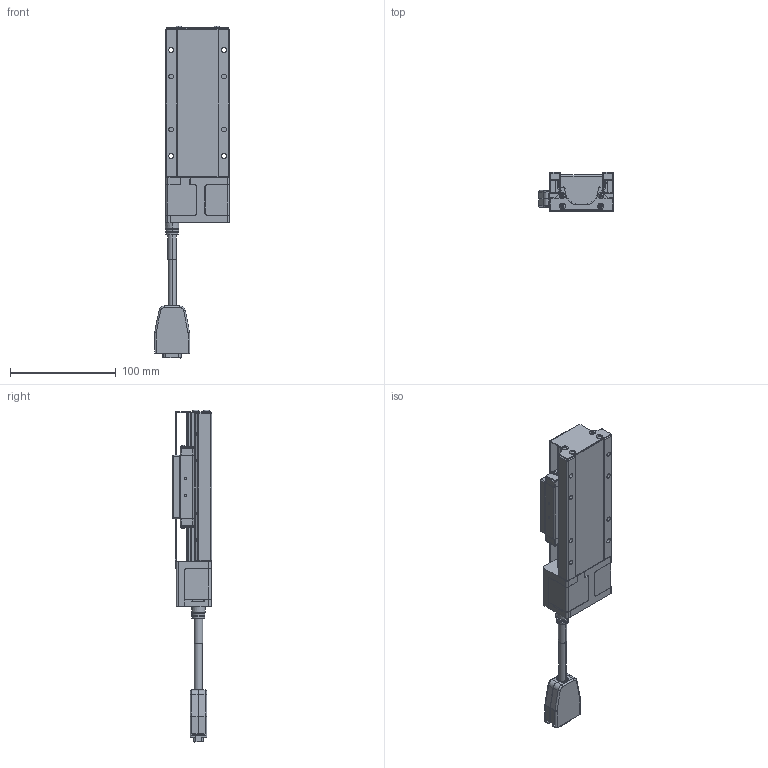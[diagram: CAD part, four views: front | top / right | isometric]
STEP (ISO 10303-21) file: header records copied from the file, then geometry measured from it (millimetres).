
FILE_DESCRIPTION (( 'STEP AP203' ), '1' );
FILE_NAME ('CXC6050-S2?N(µL°¨¹F).S', '2024-01-05T03:43:14', ( '' ), ( '' ), 'SwSTEP 2.0', 'SolidWorks 2019', '' );
FILE_SCHEMA (( 'CONFIG_CONTROL_DESIGN' ));
Length unit declared in the file: millimetre
Products named in the file (8): CXC60-102-10; SG02B005_SCM435(化鎳); CXC6050-S2?N(無馬達); CXC6050-S2OPAN-303_30; Group2^CXC6050-S2?N(28框無馬達)_defeature_GMT; Group1^CXC6050-S2?N(28框無馬達)_defeature_GMT; SD03B006_SD03B006-SCM435(化鎳); SC04B006_SUS304
Assembly tree (15 placements, depth 2):
  CXC6050-S2?N(無馬達)
    Group1^CXC6050-S2?N(28框無馬達)_defeature_GMT
    Group2^CXC6050-S2?N(28框無馬達)_defeature_GMT
    CXC6050-S2OPAN-303_30
    CXC60-102-10  x2
    SC04B006_SUS304  x4
    SG02B005_SCM435(化鎳)  x2
    SD03B006_SD03B006-SCM435(化鎳)  x4
Bounding box: 70.5 x 37 x 313.25 mm (x, y, z)
Volume: 54962 mm3; surface area: 119356 mm2
Topology: 41 solids, 44 shells, 4682 faces, 11808 edges, 7195 vertices
Faces by surface type: plane 1739, cylinder 1415, cone 719, torus 330, bspline 277, sphere 202
Entity records: 140553 total; most frequent: CARTESIAN_POINT 36430, DIRECTION 22336, ORIENTED_EDGE 21370, EDGE_CURVE 10685, AXIS2_PLACEMENT_3D 8420, VERTEX_POINT 6598, VECTOR 5496, LINE 5496
